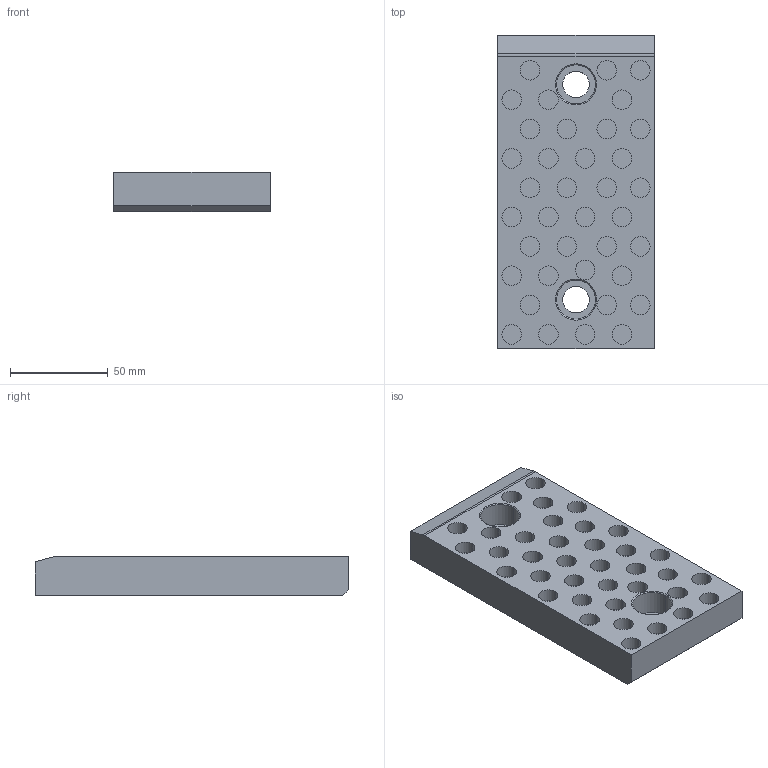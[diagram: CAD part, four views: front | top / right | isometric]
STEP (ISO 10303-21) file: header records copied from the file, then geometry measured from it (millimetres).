
FILE_DESCRIPTION (( 'STEP AP214' ), '1' );
FILE_NAME ('SW224-01-80x160.STEP', '2020-10-14T13:40:47', ( 'August' ), ( '' ), 'SwSTEP 2.0', 'SolidWorks 2018', '' );
FILE_SCHEMA (( 'AUTOMOTIVE_DESIGN' ));
Length unit declared in the file: millimetre
Products named in the file (1): SW224-01-80x160
Bounding box: 80 x 160 x 20 mm (x, y, z)
Volume: 224618 mm3; surface area: 44359.8 mm2
Topology: 1 solids, 1 shells, 134 faces, 275 edges, 182 vertices
Faces by surface type: cylinder 83, plane 47, cone 4
Entity records: 3912 total; most frequent: DIRECTION 715, CARTESIAN_POINT 592, ORIENTED_EDGE 550, AXIS2_PLACEMENT_3D 305, EDGE_CURVE 275, VERTEX_POINT 182, EDGE_LOOP 177, CIRCLE 170
